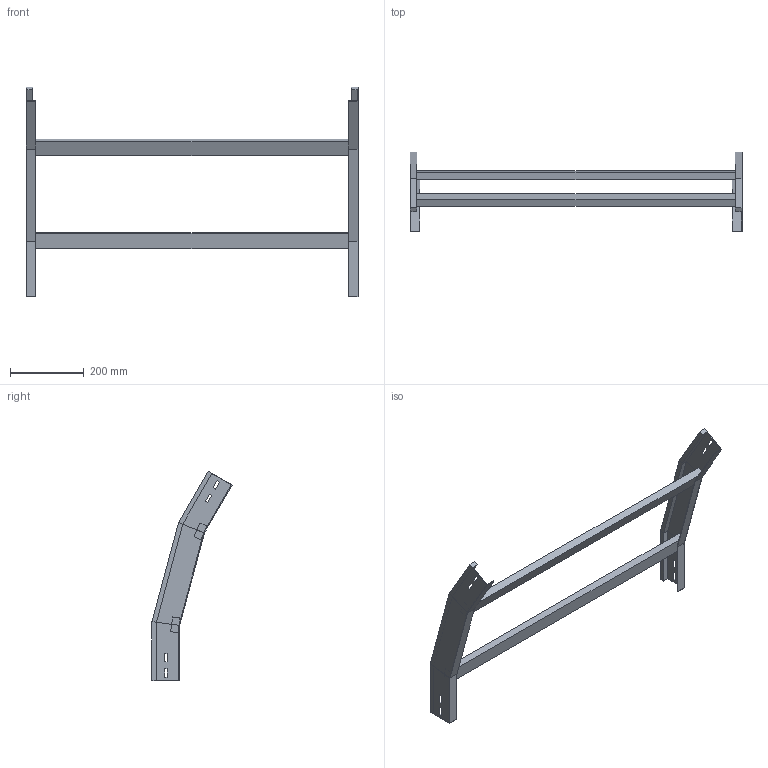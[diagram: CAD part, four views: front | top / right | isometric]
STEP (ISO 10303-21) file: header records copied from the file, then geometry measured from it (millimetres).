
FILE_DESCRIPTION (( 'STEP AP214' ), '1' );
FILE_NAME ('35B5C900.step', '2025-02-21T14:49:38', ( '' ), ( '' ), 'SwSTEP 2.0', 'SolidWorks 2023', '' );
FILE_SCHEMA (( 'AUTOMOTIVE_DESIGN' ));
Length unit declared in the file: millimetre
Products named in the file (3): LONGH.DISCESA_30°_H75_R500; TRAVERSINO_900; 35B5C900
Assembly tree (5 placements, depth 2):
  35B5C900
    LONGH.DISCESA_30°_H75_R500  x2
    TRAVERSINO_900  x3
Bounding box: 900 x 217.03 x 567.58 mm (x, y, z)
Volume: 2633002.1 mm3; surface area: 602448.5 mm2
Topology: 5 solids, 5 shells, 102 faces, 244 edges, 152 vertices
Faces by surface type: plane 102
Entity records: 1480 total; most frequent: CARTESIAN_POINT 244, ORIENTED_EDGE 232, DIRECTION 228, LINE 116, VECTOR 116, EDGE_CURVE 116, VERTEX_POINT 72, AXIS2_PLACEMENT_3D 56
